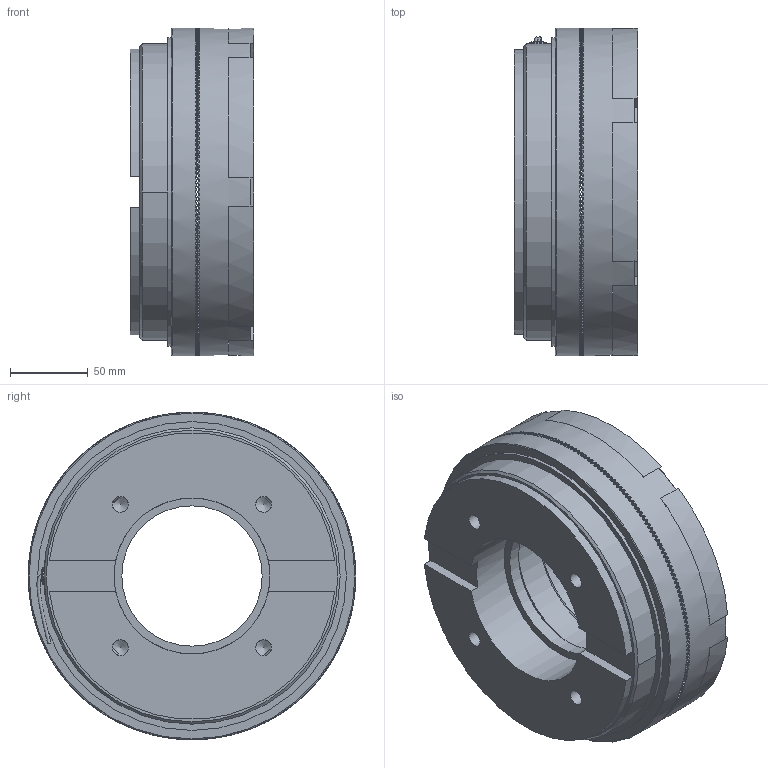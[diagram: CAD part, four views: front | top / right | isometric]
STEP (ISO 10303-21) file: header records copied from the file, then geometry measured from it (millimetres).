
FILE_DESCRIPTION(/* description */ (''),/* implementation_level */ '2;1');
FILE_NAME(/* name */ 'X:\INVENTOR\DISEGNI\07_Innesti_Elettmag_a_Dentini\07_09 EBLF_Z\07_09_210_01 EBLF210_Z\07_09_210_01 EBLF210_Z.stp',/* time_stamp */ '2023-02-13T11:25:48+01:00',/* author */ ('alessio'),/* organization */ (''),/* preprocessor_version */ 'ST-DEVELOPER v18.1',/* originating_system */ 'Autodesk Inventor 2021',/* authorisation */ '');
FILE_SCHEMA (('AUTOMOTIVE_DESIGN { 1 0 10303 214 3 1 1 }'));
Products named in the file (1): 07_09_210_01 EBLF210_Z
Bounding box: 79 x 210 x 210 mm (x, y, z)
Volume: 1855124.3 mm3; surface area: 269473.1 mm2
Topology: 4 solids, 7 shells, 2094 faces, 6167 edges, 4081 vertices
Faces by surface type: plane 1923, cylinder 104, bspline 36, cone 24, torus 7
Full cylindrical faces by diameter (mm): 4 x1, 4.4 x3, 4.917 x6, 7.9 x3, 8.5 x3, 9 x1, 10.106 x4, 11 x1, 12 x3, 13 x3, 90 x1, 100 x4, 137 x2, 138 x1, 164 x1, 165 x2, 190 x1, 192 x1, 194 x1, 198 x1, 210 x2
Entity records: 78961 total; most frequent: CARTESIAN_POINT 17617, DIRECTION 13928, ORIENTED_EDGE 12318, EDGE_CURVE 6159, AXIS2_PLACEMENT_3D 5833, VERTEX_POINT 4082, ELLIPSE 2566, LINE 2262
